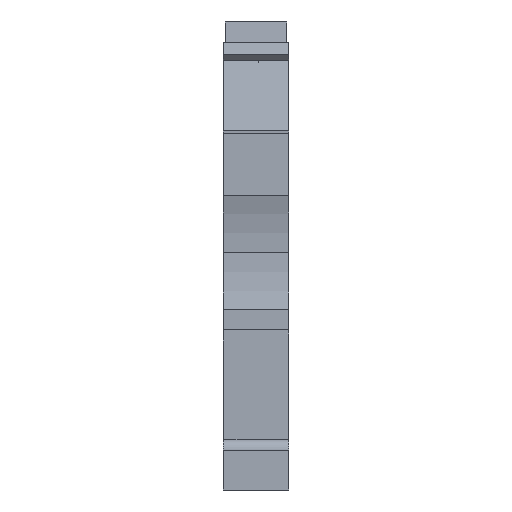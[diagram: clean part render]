
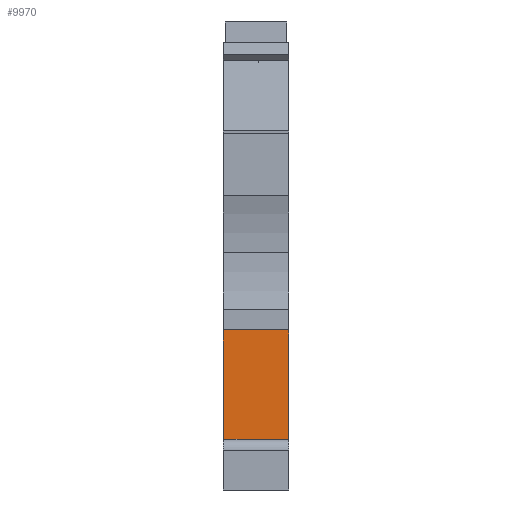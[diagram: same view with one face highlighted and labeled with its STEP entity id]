
A CAD part, front view. The second image highlights one B-rep face of the part: STEP entity #9970.
In plain terms, the highlighted planar face has unit normal (0, -1, 0).
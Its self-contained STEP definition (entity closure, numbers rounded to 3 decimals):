
#34=CARTESIAN_POINT('',(0.,3.6,4.));
#35=VERTEX_POINT('',#34);
#42=CARTESIAN_POINT('',(0.,3.6,12.6));
#43=VERTEX_POINT('',#42);
#44=CARTESIAN_POINT('',(-0.,3.6,4.));
#45=DIRECTION('',(0.,-0.,1.));
#46=VECTOR('',#45,8.6);
#47=LINE('',#44,#46);
#48=EDGE_CURVE('',#35,#43,#47,.T.);
#1170=CARTESIAN_POINT('',(5.15,3.6,1.5));
#1171=VERTEX_POINT('',#1170);
#1178=CARTESIAN_POINT('',(1.,3.6,1.5));
#1179=VERTEX_POINT('',#1178);
#1180=CARTESIAN_POINT('',(1.,3.6,1.5));
#1181=DIRECTION('',(1.,0.,-0.));
#1182=VECTOR('',#1181,4.15);
#1183=LINE('',#1180,#1182);
#1184=EDGE_CURVE('',#1179,#1171,#1183,.T.);
#1991=CARTESIAN_POINT('',(5.15,3.6,12.6));
#1992=VERTEX_POINT('',#1991);
#1999=CARTESIAN_POINT('',(5.15,3.6,1.5));
#2000=DIRECTION('',(0.,-0.,1.));
#2001=VECTOR('',#2000,11.1);
#2002=LINE('',#1999,#2001);
#2003=EDGE_CURVE('',#1171,#1992,#2002,.T.);
#4934=CARTESIAN_POINT('',(5.15,3.6,12.6));
#4935=DIRECTION('',(-1.,-0.,0.));
#4936=VECTOR('',#4935,5.15);
#4937=LINE('',#4934,#4936);
#4938=EDGE_CURVE('',#1992,#43,#4937,.T.);
#9918=CARTESIAN_POINT('',(1.,3.6,4.));
#9919=VERTEX_POINT('',#9918);
#9920=CARTESIAN_POINT('',(1.,3.6,4.));
#9921=DIRECTION('',(-0.,0.,-1.));
#9922=VECTOR('',#9921,2.5);
#9923=LINE('',#9920,#9922);
#9924=EDGE_CURVE('',#9919,#1179,#9923,.T.);
#9941=CARTESIAN_POINT('',(-0.,3.6,4.));
#9942=DIRECTION('',(1.,0.,-0.));
#9943=VECTOR('',#9942,1.);
#9944=LINE('',#9941,#9943);
#9945=EDGE_CURVE('',#35,#9919,#9944,.T.);
#9957=CARTESIAN_POINT('',(5.15,3.6,5.));
#9958=DIRECTION('',(0.,-1.,-0.));
#9959=DIRECTION('',(0.,-0.,1.));
#9960=AXIS2_PLACEMENT_3D('',#9957,#9958,#9959);
#9961=PLANE('',#9960);
#9962=ORIENTED_EDGE('',*,*,#4938,.T.);
#9963=ORIENTED_EDGE('',*,*,#48,.F.);
#9964=ORIENTED_EDGE('',*,*,#9945,.T.);
#9965=ORIENTED_EDGE('',*,*,#9924,.T.);
#9966=ORIENTED_EDGE('',*,*,#1184,.T.);
#9967=ORIENTED_EDGE('',*,*,#2003,.T.);
#9968=EDGE_LOOP('',(#9962,#9963,#9964,#9965,#9966,#9967));
#9969=FACE_BOUND('',#9968,.T.);
#9970=ADVANCED_FACE('',(#9969),#9961,.T.);
